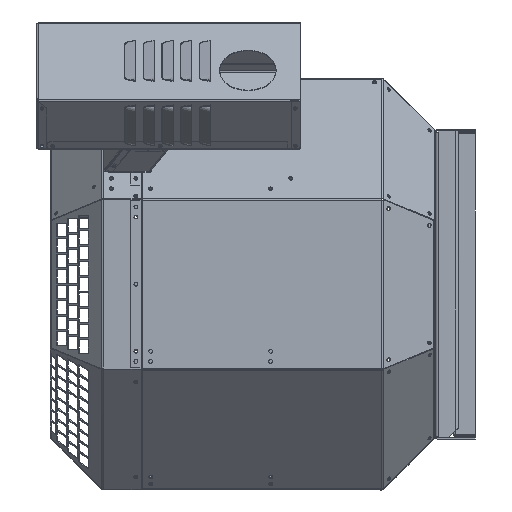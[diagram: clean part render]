
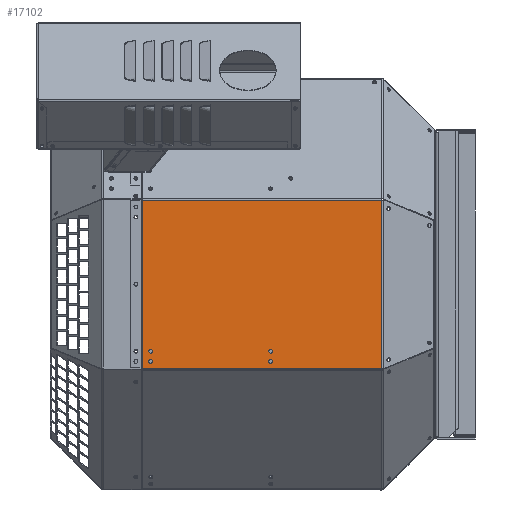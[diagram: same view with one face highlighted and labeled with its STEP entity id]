
A CAD part, left-side view. The second image highlights one B-rep face of the part: STEP entity #17102.
In plain terms, the highlighted planar face has unit normal (-1, 0, 0).
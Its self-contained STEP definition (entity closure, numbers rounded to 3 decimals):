
#205 = EDGE_CURVE ( 'NONE', #24460, #3944, #68909, .T. ) ;
#603 = CARTESIAN_POINT ( 'NONE',  ( -226., 320.755, -94.837 ) ) ;
#833 = VERTEX_POINT ( 'NONE', #26268 ) ;
#1148 = DIRECTION ( 'NONE',  ( -1., 0., 0. ) ) ;
#1741 = CARTESIAN_POINT ( 'NONE',  ( -226., 320.763, 93.198 ) ) ;
#2043 = DIRECTION ( 'NONE',  ( 0., 0., -1. ) ) ;
#2531 = PLANE ( 'NONE',  #4332 ) ;
#3944 = VERTEX_POINT ( 'NONE', #72200 ) ;
#4332 = AXIS2_PLACEMENT_3D ( 'NONE', #62952, #29530, #76391 ) ;
#4484 = DIRECTION ( 'NONE',  ( -1., 0., 0. ) ) ;
#4743 = VERTEX_POINT ( 'NONE', #19460 ) ;
#5187 = DIRECTION ( 'NONE',  ( 0., -1., 0. ) ) ;
#6015 = VERTEX_POINT ( 'NONE', #79450 ) ;
#6665 = CARTESIAN_POINT ( 'NONE',  ( -226., 180.147, -86.918 ) ) ;
#7466 = FACE_BOUND ( 'NONE', #65936, .T. ) ;
#7491 = VECTOR ( 'NONE', #13657, 1000. ) ;
#7542 = VERTEX_POINT ( 'NONE', #64140 ) ;
#7580 = CARTESIAN_POINT ( 'NONE',  ( -226., 180.147, -84.818 ) ) ;
#7701 = EDGE_CURVE ( 'NONE', #83315, #18016, #34542, .T. ) ;
#8503 = DIRECTION ( 'NONE',  ( 0., 0., 1. ) ) ;
#8518 = CARTESIAN_POINT ( 'NONE',  ( -226., 58.185, 93.198 ) ) ;
#8550 = AXIS2_PLACEMENT_3D ( 'NONE', #41355, #1148, #48081 ) ;
#9344 = EDGE_CURVE ( 'NONE', #7542, #39843, #12244, .T. ) ;
#9478 = EDGE_CURVE ( 'NONE', #53759, #38293, #35307, .T. ) ;
#9557 = FACE_BOUND ( 'NONE', #37206, .T. ) ;
#10157 = ORIENTED_EDGE ( 'NONE', *, *, #9478, .F. ) ;
#10238 = DIRECTION ( 'NONE',  ( -1., 0., 0. ) ) ;
#10359 = EDGE_CURVE ( 'NONE', #6015, #833, #29895, .T. ) ;
#11497 = CARTESIAN_POINT ( 'NONE',  ( -226., 320.763, 91.837 ) ) ;
#12244 = LINE ( 'NONE', #8518, #61545 ) ;
#12449 = AXIS2_PLACEMENT_3D ( 'NONE', #44681, #4484, #51406 ) ;
#12486 = VERTEX_POINT ( 'NONE', #65031 ) ;
#13223 = ORIENTED_EDGE ( 'NONE', *, *, #48904, .F. ) ;
#13547 = ORIENTED_EDGE ( 'NONE', *, *, #205, .F. ) ;
#13657 = DIRECTION ( 'NONE',  ( 0., 1., 0. ) ) ;
#13921 = CARTESIAN_POINT ( 'NONE',  ( -226., 320.755, 94.837 ) ) ;
#14311 = DIRECTION ( 'NONE',  ( 0., 0., 1. ) ) ;
#15046 = EDGE_CURVE ( 'NONE', #50394, #71410, #28832, .T. ) ;
#15987 = DIRECTION ( 'NONE',  ( -1., 0., 0. ) ) ;
#16945 = EDGE_CURVE ( 'NONE', #71410, #39843, #75657, .T. ) ;
#17102 = ADVANCED_FACE ( 'NONE', ( #7466, #9557, #43139, #25299, #76652 ), #2531, .T. ) ;
#17595 = AXIS2_PLACEMENT_3D ( 'NONE', #72836, #32694, #79559 ) ;
#18016 = VERTEX_POINT ( 'NONE', #11497 ) ;
#18173 = ORIENTED_EDGE ( 'NONE', *, *, #16945, .T. ) ;
#19460 = CARTESIAN_POINT ( 'NONE',  ( -226., 311.927, -82.718 ) ) ;
#21081 = DIRECTION ( 'NONE',  ( 0., -1., 0. ) ) ;
#22340 = EDGE_CURVE ( 'NONE', #54852, #18016, #80921, .T. ) ;
#22879 = DIRECTION ( 'NONE',  ( -1., 0., 0. ) ) ;
#23169 = CARTESIAN_POINT ( 'NONE',  ( -226., 334.155, -92.287 ) ) ;
#24060 = ORIENTED_EDGE ( 'NONE', *, *, #24539, .T. ) ;
#24460 = VERTEX_POINT ( 'NONE', #84334 ) ;
#24539 = EDGE_CURVE ( 'NONE', #83315, #50394, #74367, .T. ) ;
#24656 = ORIENTED_EDGE ( 'NONE', *, *, #24987, .F. ) ;
#24987 = EDGE_CURVE ( 'NONE', #833, #6015, #42859, .T. ) ;
#25169 = EDGE_CURVE ( 'NONE', #12486, #4743, #50168, .T. ) ;
#25299 = FACE_BOUND ( 'NONE', #85102, .T. ) ;
#26268 = CARTESIAN_POINT ( 'NONE',  ( -226., 311.927, -71.61 ) ) ;
#27111 = ORIENTED_EDGE ( 'NONE', *, *, #7701, .F. ) ;
#27386 = DIRECTION ( 'NONE',  ( 0., 0., -1. ) ) ;
#27916 = DIRECTION ( 'NONE',  ( 0., 0., -1. ) ) ;
#28832 = LINE ( 'NONE', #603, #60295 ) ;
#29530 = DIRECTION ( 'NONE',  ( -1., 0., 0. ) ) ;
#29895 = CIRCLE ( 'NONE', #17595, 2.1 ) ;
#29925 = DIRECTION ( 'NONE',  ( 0., -1., 0. ) ) ;
#29934 = EDGE_CURVE ( 'NONE', #66036, #54852, #71809, .T. ) ;
#30640 = ORIENTED_EDGE ( 'NONE', *, *, #9344, .F. ) ;
#31638 = ORIENTED_EDGE ( 'NONE', *, *, #29934, .T. ) ;
#32553 = EDGE_LOOP ( 'NONE', ( #27111, #24060, #48897, #18173, #30640, #13223, #31638, #59650 ) ) ;
#32694 = DIRECTION ( 'NONE',  ( -1., 0., 0. ) ) ;
#33396 = ORIENTED_EDGE ( 'NONE', *, *, #53175, .F. ) ;
#33525 = ORIENTED_EDGE ( 'NONE', *, *, #77505, .F. ) ;
#33616 = CIRCLE ( 'NONE', #12449, 2.1 ) ;
#33770 = DIRECTION ( 'NONE',  ( -1., 0., 0. ) ) ;
#34542 = LINE ( 'NONE', #1741, #83766 ) ;
#34755 = CARTESIAN_POINT ( 'NONE',  ( -226., 320.755, -91.837 ) ) ;
#35217 = AXIS2_PLACEMENT_3D ( 'NONE', #52495, #33770, #84658 ) ;
#35307 = CIRCLE ( 'NONE', #76476, 2.1 ) ;
#37206 = EDGE_LOOP ( 'NONE', ( #13547, #53176 ) ) ;
#38293 = VERTEX_POINT ( 'NONE', #56927 ) ;
#39843 = VERTEX_POINT ( 'NONE', #82036 ) ;
#41355 = CARTESIAN_POINT ( 'NONE',  ( -226., 311.927, -84.818 ) ) ;
#42859 = CIRCLE ( 'NONE', #44589, 2.1 ) ;
#43139 = FACE_BOUND ( 'NONE', #82686, .T. ) ;
#44589 = AXIS2_PLACEMENT_3D ( 'NONE', #56151, #15987, #62878 ) ;
#44681 = CARTESIAN_POINT ( 'NONE',  ( -226., 180.147, -73.71 ) ) ;
#46463 = CARTESIAN_POINT ( 'NONE',  ( -226., 320.755, -92.287 ) ) ;
#46519 = CARTESIAN_POINT ( 'NONE',  ( -226., 320.755, 92.287 ) ) ;
#48081 = DIRECTION ( 'NONE',  ( 0., 0., 1. ) ) ;
#48897 = ORIENTED_EDGE ( 'NONE', *, *, #15046, .T. ) ;
#48904 = EDGE_CURVE ( 'NONE', #66036, #7542, #72022, .T. ) ;
#50168 = CIRCLE ( 'NONE', #80488, 2.1 ) ;
#50394 = VERTEX_POINT ( 'NONE', #34755 ) ;
#50415 = CARTESIAN_POINT ( 'NONE',  ( -226., 180.147, -84.818 ) ) ;
#51406 = DIRECTION ( 'NONE',  ( 0., 0., 1. ) ) ;
#52495 = CARTESIAN_POINT ( 'NONE',  ( -226., 180.147, -73.71 ) ) ;
#53175 = EDGE_CURVE ( 'NONE', #4743, #12486, #86154, .T. ) ;
#53176 = ORIENTED_EDGE ( 'NONE', *, *, #64953, .F. ) ;
#53759 = VERTEX_POINT ( 'NONE', #6665 ) ;
#53985 = VECTOR ( 'NONE', #27386, 1000. ) ;
#54498 = DIRECTION ( 'NONE',  ( -1., 0., 0. ) ) ;
#54852 = VERTEX_POINT ( 'NONE', #76759 ) ;
#56151 = CARTESIAN_POINT ( 'NONE',  ( -226., 311.927, -73.71 ) ) ;
#56571 = VECTOR ( 'NONE', #5187, 1000. ) ;
#56927 = CARTESIAN_POINT ( 'NONE',  ( -226., 180.147, -82.718 ) ) ;
#57175 = DIRECTION ( 'NONE',  ( 0., 0., 1. ) ) ;
#57744 = ORIENTED_EDGE ( 'NONE', *, *, #25169, .F. ) ;
#59650 = ORIENTED_EDGE ( 'NONE', *, *, #22340, .T. ) ;
#60295 = VECTOR ( 'NONE', #27916, 1000. ) ;
#61545 = VECTOR ( 'NONE', #2043, 1000. ) ;
#62878 = DIRECTION ( 'NONE',  ( 0., 0., 1. ) ) ;
#62952 = CARTESIAN_POINT ( 'NONE',  ( -226., 334.155, 93.198 ) ) ;
#63070 = CARTESIAN_POINT ( 'NONE',  ( -226., 311.927, -84.818 ) ) ;
#64140 = CARTESIAN_POINT ( 'NONE',  ( -226., 58.185, 92.287 ) ) ;
#64953 = EDGE_CURVE ( 'NONE', #3944, #24460, #33616, .T. ) ;
#65031 = CARTESIAN_POINT ( 'NONE',  ( -226., 311.927, -86.918 ) ) ;
#65936 = EDGE_LOOP ( 'NONE', ( #33525, #10157 ) ) ;
#66036 = VERTEX_POINT ( 'NONE', #46519 ) ;
#68909 = CIRCLE ( 'NONE', #35217, 2.1 ) ;
#69782 = DIRECTION ( 'NONE',  ( 0., 0., 1. ) ) ;
#69876 = VECTOR ( 'NONE', #21081, 1000. ) ;
#71410 = VERTEX_POINT ( 'NONE', #46463 ) ;
#71809 = LINE ( 'NONE', #13921, #53985 ) ;
#72022 = LINE ( 'NONE', #74676, #69876 ) ;
#72200 = CARTESIAN_POINT ( 'NONE',  ( -226., 180.147, -75.81 ) ) ;
#72836 = CARTESIAN_POINT ( 'NONE',  ( -226., 311.927, -73.71 ) ) ;
#73507 = AXIS2_PLACEMENT_3D ( 'NONE', #7580, #54498, #14311 ) ;
#73574 = VECTOR ( 'NONE', #29925, 1000. ) ;
#73719 = CARTESIAN_POINT ( 'NONE',  ( -226., 334.155, 91.837 ) ) ;
#74367 = LINE ( 'NONE', #84908, #56571 ) ;
#74487 = ORIENTED_EDGE ( 'NONE', *, *, #10359, .F. ) ;
#74676 = CARTESIAN_POINT ( 'NONE',  ( -226., 334.155, 92.287 ) ) ;
#75657 = LINE ( 'NONE', #23169, #73574 ) ;
#76391 = DIRECTION ( 'NONE',  ( 0., 0., 1. ) ) ;
#76476 = AXIS2_PLACEMENT_3D ( 'NONE', #50415, #10238, #57175 ) ;
#76652 = FACE_OUTER_BOUND ( 'NONE', #32553, .T. ) ;
#76759 = CARTESIAN_POINT ( 'NONE',  ( -226., 320.755, 91.837 ) ) ;
#77505 = EDGE_CURVE ( 'NONE', #38293, #53759, #84282, .T. ) ;
#79450 = CARTESIAN_POINT ( 'NONE',  ( -226., 311.927, -75.81 ) ) ;
#79559 = DIRECTION ( 'NONE',  ( 0., 0., 1. ) ) ;
#80488 = AXIS2_PLACEMENT_3D ( 'NONE', #63070, #22879, #69782 ) ;
#80921 = LINE ( 'NONE', #73719, #7491 ) ;
#81175 = CARTESIAN_POINT ( 'NONE',  ( -226., 320.763, -91.837 ) ) ;
#82036 = CARTESIAN_POINT ( 'NONE',  ( -226., 58.185, -92.287 ) ) ;
#82686 = EDGE_LOOP ( 'NONE', ( #33396, #57744 ) ) ;
#83315 = VERTEX_POINT ( 'NONE', #81175 ) ;
#83766 = VECTOR ( 'NONE', #8503, 1000. ) ;
#84282 = CIRCLE ( 'NONE', #73507, 2.1 ) ;
#84334 = CARTESIAN_POINT ( 'NONE',  ( -226., 180.147, -71.61 ) ) ;
#84658 = DIRECTION ( 'NONE',  ( 0., 0., 1. ) ) ;
#84908 = CARTESIAN_POINT ( 'NONE',  ( -226., 334.155, -91.837 ) ) ;
#85102 = EDGE_LOOP ( 'NONE', ( #24656, #74487 ) ) ;
#86154 = CIRCLE ( 'NONE', #8550, 2.1 ) ;
